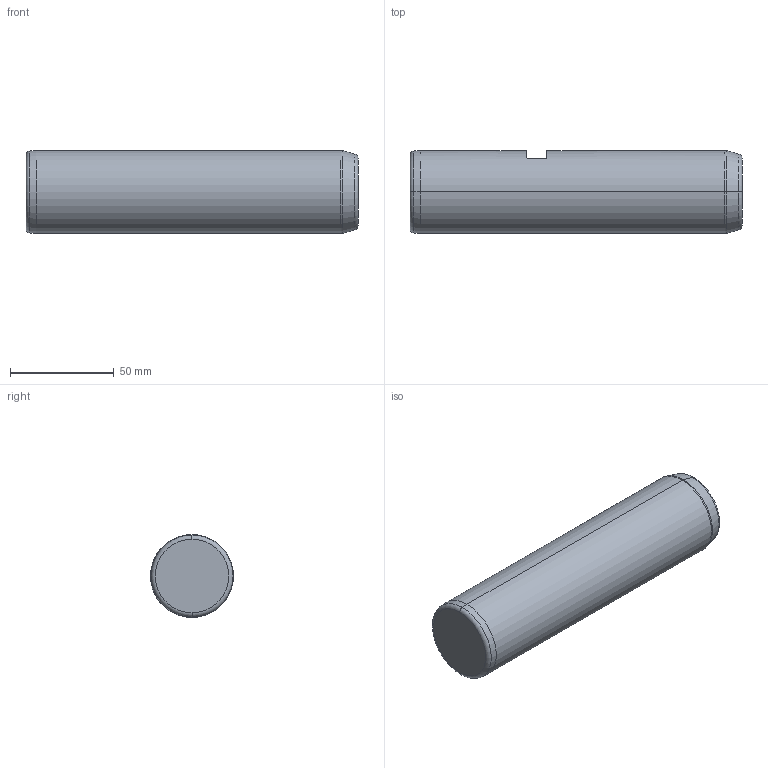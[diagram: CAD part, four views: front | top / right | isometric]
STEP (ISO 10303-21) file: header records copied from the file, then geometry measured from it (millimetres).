
FILE_DESCRIPTION (( 'STEP AP214' ), '1' );
FILE_NAME ('SP202-08-40-160.STEP', '2020-11-03T14:16:49', ( '' ), ( '' ), 'SwSTEP 2.0', 'SolidWorks 2018', '' );
FILE_SCHEMA (( 'AUTOMOTIVE_DESIGN' ));
Length unit declared in the file: millimetre
Products named in the file (1): SP202-08-40-160
Bounding box: 160 x 40 x 40 mm (x, y, z)
Volume: 194842.6 mm3; surface area: 23499.9 mm2
Topology: 1 solids, 1 shells, 26 faces, 54 edges, 31 vertices
Faces by surface type: cylinder 8, cone 6, torus 6, plane 6
Entity records: 740 total; most frequent: CARTESIAN_POINT 146, DIRECTION 132, ORIENTED_EDGE 104, AXIS2_PLACEMENT_3D 57, EDGE_CURVE 52, VERTEX_POINT 31, CIRCLE 30, EDGE_LOOP 29
